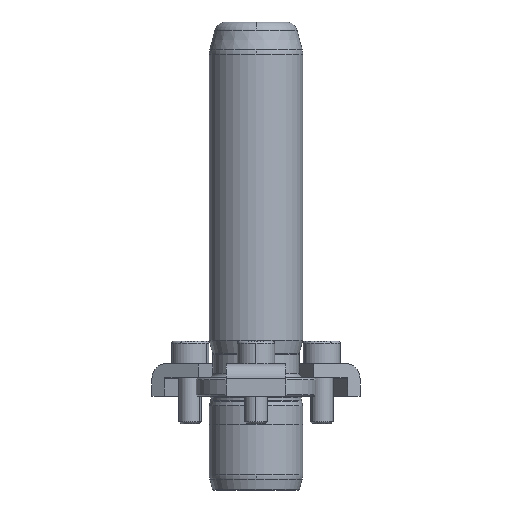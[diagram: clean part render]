
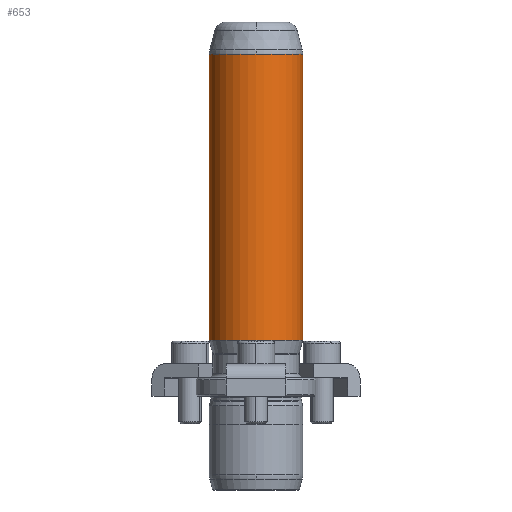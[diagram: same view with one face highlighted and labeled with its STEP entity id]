
A CAD part, front view. The second image highlights one B-rep face of the part: STEP entity #653.
In plain terms, the highlighted cylindrical face has radius 12.5 mm (diameter 25 mm), a partial arc.
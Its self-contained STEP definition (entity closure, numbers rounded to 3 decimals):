
#566=CARTESIAN_POINT('',(0.0,-12.5,91.342));
#567=VERTEX_POINT('',#566);
#594=CARTESIAN_POINT('',(-12.5,0.,91.342));
#595=VERTEX_POINT('',#594);
#603=CARTESIAN_POINT('',(0.0,0.,91.342));
#604=DIRECTION('',(0.0,0.0,1.0));
#605=DIRECTION('',(1.0,0.0,0.0));
#606=AXIS2_PLACEMENT_3D('',#603,#604,#605);
#607=CIRCLE('',#606,12.5);
#608=EDGE_CURVE('',#595,#567,#607,.T.);
#613=CARTESIAN_POINT('',(0.0,0.,53.171));
#614=DIRECTION('',(0.0,0.,1.0));
#615=DIRECTION('',(1.0,0.0,0.0));
#616=AXIS2_PLACEMENT_3D('',#613,#614,#615);
#617=CYLINDRICAL_SURFACE('',#616,12.5);
#618=CARTESIAN_POINT('',(12.5,0.,91.342));
#619=VERTEX_POINT('',#618);
#620=CARTESIAN_POINT('',(12.5,0.,15.0));
#621=VERTEX_POINT('',#620);
#622=CARTESIAN_POINT('',(12.5,0.,91.342));
#623=DIRECTION('',(0.0,0.0,-1.0));
#624=VECTOR('',#623,76.342);
#625=LINE('',#622,#624);
#626=EDGE_CURVE('',#619,#621,#625,.T.);
#627=ORIENTED_EDGE('',*,*,#626,.F.);
#628=CARTESIAN_POINT('',(0.0,0.,91.342));
#629=DIRECTION('',(0.0,0.0,1.0));
#630=DIRECTION('',(1.0,0.0,0.0));
#631=AXIS2_PLACEMENT_3D('',#628,#629,#630);
#632=CIRCLE('',#631,12.5);
#633=EDGE_CURVE('',#567,#619,#632,.T.);
#634=ORIENTED_EDGE('',*,*,#633,.F.);
#635=ORIENTED_EDGE('',*,*,#608,.F.);
#636=CARTESIAN_POINT('',(-12.5,0.,15.0));
#637=VERTEX_POINT('',#636);
#638=CARTESIAN_POINT('',(-12.5,0.,91.342));
#639=DIRECTION('',(0.0,0.0,-1.0));
#640=VECTOR('',#639,76.342);
#641=LINE('',#638,#640);
#642=EDGE_CURVE('',#595,#637,#641,.T.);
#643=ORIENTED_EDGE('',*,*,#642,.T.);
#644=CARTESIAN_POINT('',(0.0,0.,15.0));
#645=DIRECTION('',(0.0,0.0,1.0));
#646=DIRECTION('',(1.0,0.0,0.0));
#647=AXIS2_PLACEMENT_3D('',#644,#645,#646);
#648=CIRCLE('',#647,12.5);
#649=EDGE_CURVE('',#637,#621,#648,.T.);
#650=ORIENTED_EDGE('',*,*,#649,.T.);
#651=EDGE_LOOP('',(#627,#634,#635,#643,#650));
#652=FACE_OUTER_BOUND('',#651,.T.);
#653=ADVANCED_FACE('',(#652),#617,.T.);
